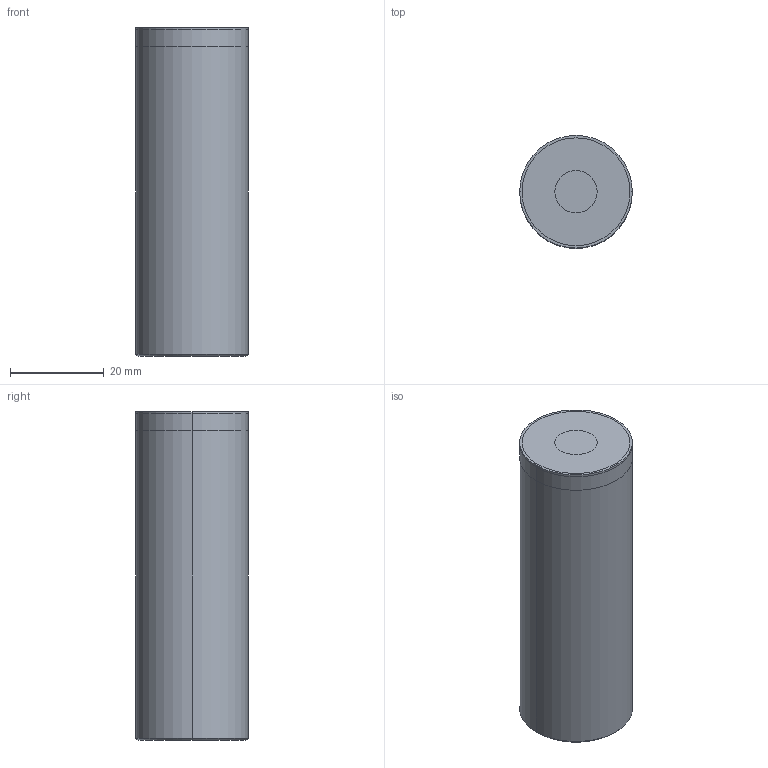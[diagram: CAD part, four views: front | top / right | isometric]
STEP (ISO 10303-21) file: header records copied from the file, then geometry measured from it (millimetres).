
FILE_DESCRIPTION (( 'STEP AP214' ), '1' );
FILE_NAME ('BruyRubio_BRSP_24_X_70.STEP', '2020-01-15T07:46:03', ( '' ), ( '' ), 'SwSTEP 2.0', 'SolidWorks 2017', '' );
FILE_SCHEMA (( 'AUTOMOTIVE_DESIGN' ));
Length unit declared in the file: millimetre
Products named in the file (3): BruyRubio_BRSP_24_X_70; Einbauraum_5ba900; BRSP 24 X 70_09e7ef
Assembly tree (2 placements, depth 2):
  BruyRubio_BRSP_24_X_70
    Einbauraum_5ba900
    BRSP 24 X 70_09e7ef
Bounding box: 24 x 24 x 70.08 mm (x, y, z)
Volume: 27950.3 mm3; surface area: 9366.3 mm2
Topology: 2 solids, 2 shells, 17 faces, 32 edges, 20 vertices
Faces by surface type: cylinder 8, plane 5, cone 4
Entity records: 735 total; most frequent: DIRECTION 96, CARTESIAN_POINT 74, ORIENTED_EDGE 64, AXIS2_PLACEMENT_3D 42, EDGE_CURVE 32, UNCERTAINTY_MEASURE_WITH_UNIT 24, MECHANICAL_DESIGN_GEOMETRIC_PRESENTATION_REPRESENTATION 21, PRESENTATION_LAYER_ASSIGNMENT 21
